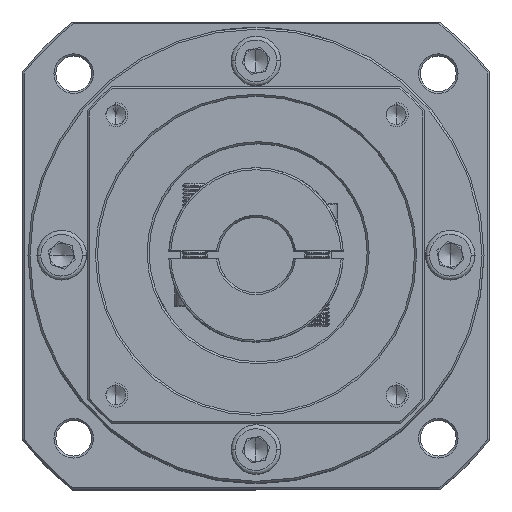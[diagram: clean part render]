
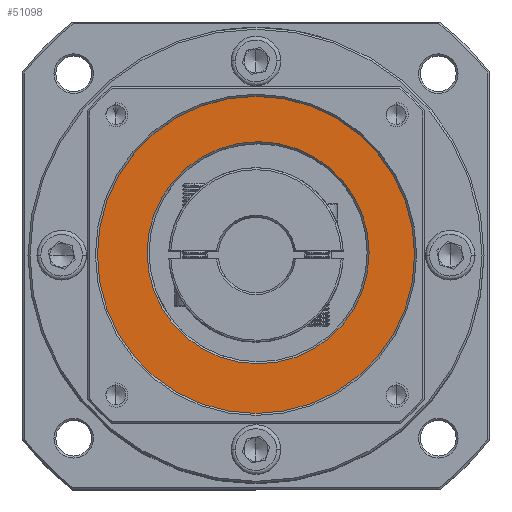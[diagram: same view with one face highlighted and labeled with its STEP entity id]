
A CAD part, top view. The second image highlights one B-rep face of the part: STEP entity #51098.
In plain terms, the highlighted planar face has unit normal (0, 0, 1).
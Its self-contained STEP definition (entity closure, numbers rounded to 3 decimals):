
#2747 = EDGE_CURVE ( 'NONE', #119298, #8707, #13080, .T. ) ;
#3057 = FACE_BOUND ( 'NONE', #120810, .T. ) ;
#4109 = ORIENTED_EDGE ( 'NONE', *, *, #2747, .T. ) ;
#8707 = VERTEX_POINT ( 'NONE', #21954 ) ;
#9004 = CIRCLE ( 'NONE', #63387, 28. ) ;
#10788 = DIRECTION ( 'NONE',  ( 0., 0., 1. ) ) ;
#13080 = CIRCLE ( 'NONE', #13388, 28. ) ;
#13388 = AXIS2_PLACEMENT_3D ( 'NONE', #14793, #85139, #95778 ) ;
#13890 = DIRECTION ( 'NONE',  ( 0., -1., 0. ) ) ;
#14793 = CARTESIAN_POINT ( 'NONE',  ( 29.8, 111.753, 9.23 ) ) ;
#21515 = VERTEX_POINT ( 'NONE', #112004 ) ;
#21954 = CARTESIAN_POINT ( 'NONE',  ( 29.8, 83.753, 9.23 ) ) ;
#32064 = AXIS2_PLACEMENT_3D ( 'NONE', #43932, #124854, #13890 ) ;
#33997 = CIRCLE ( 'NONE', #78016, 40. ) ;
#36233 = CARTESIAN_POINT ( 'NONE',  ( 29.266, 151.211, 9.23 ) ) ;
#43118 = VERTEX_POINT ( 'NONE', #36233 ) ;
#43932 = CARTESIAN_POINT ( 'NONE',  ( 29.266, 111.211, 9.23 ) ) ;
#46097 = CARTESIAN_POINT ( 'NONE',  ( 29.266, 111.211, 9.23 ) ) ;
#51098 = ADVANCED_FACE ( 'NONE', ( #104238, #3057 ), #94413, .T. ) ;
#63387 = AXIS2_PLACEMENT_3D ( 'NONE', #121452, #118821, #78183 ) ;
#65755 = CIRCLE ( 'NONE', #90624, 40. ) ;
#72749 = DIRECTION ( 'NONE',  ( 0., -1., 0. ) ) ;
#77548 = DIRECTION ( 'NONE',  ( 0., -1., 0. ) ) ;
#78016 = AXIS2_PLACEMENT_3D ( 'NONE', #46097, #96967, #77548 ) ;
#78183 = DIRECTION ( 'NONE',  ( 0., -1., 0. ) ) ;
#82878 = CARTESIAN_POINT ( 'NONE',  ( 29.266, 111.211, 9.23 ) ) ;
#85139 = DIRECTION ( 'NONE',  ( 0., 0., -1. ) ) ;
#90624 = AXIS2_PLACEMENT_3D ( 'NONE', #82878, #10788, #72749 ) ;
#93121 = CARTESIAN_POINT ( 'NONE',  ( 29.8, 139.753, 9.23 ) ) ;
#94413 = PLANE ( 'NONE',  #32064 ) ;
#94994 = EDGE_CURVE ( 'NONE', #8707, #119298, #9004, .T. ) ;
#95763 = EDGE_CURVE ( 'NONE', #43118, #21515, #65755, .T. ) ;
#95778 = DIRECTION ( 'NONE',  ( 0., -1., 0. ) ) ;
#96967 = DIRECTION ( 'NONE',  ( 0., 0., 1. ) ) ;
#98501 = EDGE_LOOP ( 'NONE', ( #101946, #116049 ) ) ;
#101946 = ORIENTED_EDGE ( 'NONE', *, *, #116205, .T. ) ;
#104238 = FACE_OUTER_BOUND ( 'NONE', #98501, .T. ) ;
#107586 = ORIENTED_EDGE ( 'NONE', *, *, #94994, .T. ) ;
#112004 = CARTESIAN_POINT ( 'NONE',  ( 29.266, 71.211, 9.23 ) ) ;
#116049 = ORIENTED_EDGE ( 'NONE', *, *, #95763, .T. ) ;
#116205 = EDGE_CURVE ( 'NONE', #21515, #43118, #33997, .T. ) ;
#118821 = DIRECTION ( 'NONE',  ( 0., 0., -1. ) ) ;
#119298 = VERTEX_POINT ( 'NONE', #93121 ) ;
#120810 = EDGE_LOOP ( 'NONE', ( #107586, #4109 ) ) ;
#121452 = CARTESIAN_POINT ( 'NONE',  ( 29.8, 111.753, 9.23 ) ) ;
#124854 = DIRECTION ( 'NONE',  ( 0., 0., 1. ) ) ;
